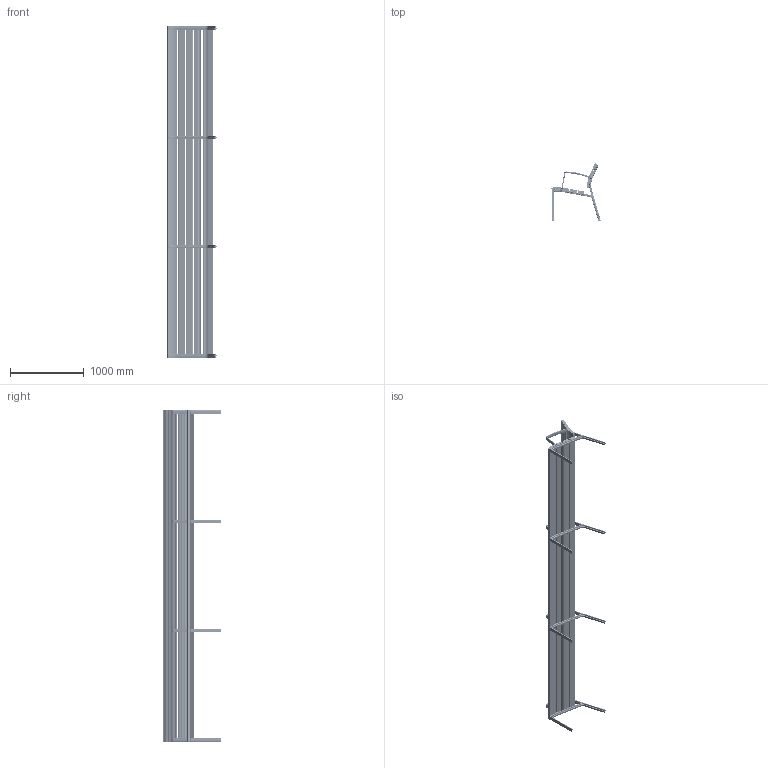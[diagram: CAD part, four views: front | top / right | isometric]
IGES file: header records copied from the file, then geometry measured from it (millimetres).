
Start section: SolidWorks IGES file using analytic representation for surfaces
Global section: file name: C:\SANTACOLE_PDM\Proyectos Catálogo\PROD-P06-035 -- NEOROMÁNTICO LIVIANO\6_Técnico comercial\3D WEB\NEOROMANTICO LIVIANO 100% ALUMINIO 450cm.IGS; native system: SolidWorks 2013; preprocessor: SolidWorks 2013; author: jordi.munoz; date: 150611.133010; units: millimetre
Bounding box: 668.94 x 777.54 x 4504.33 mm (x, y, z)
Surface area: 23329961.5 mm2 (no closed solid volume)
Topology: 0 solids, 0 shells, 9045 faces, 74546 edges, 74450 vertices
Faces by surface type: bspline 5233, revolution 3812
